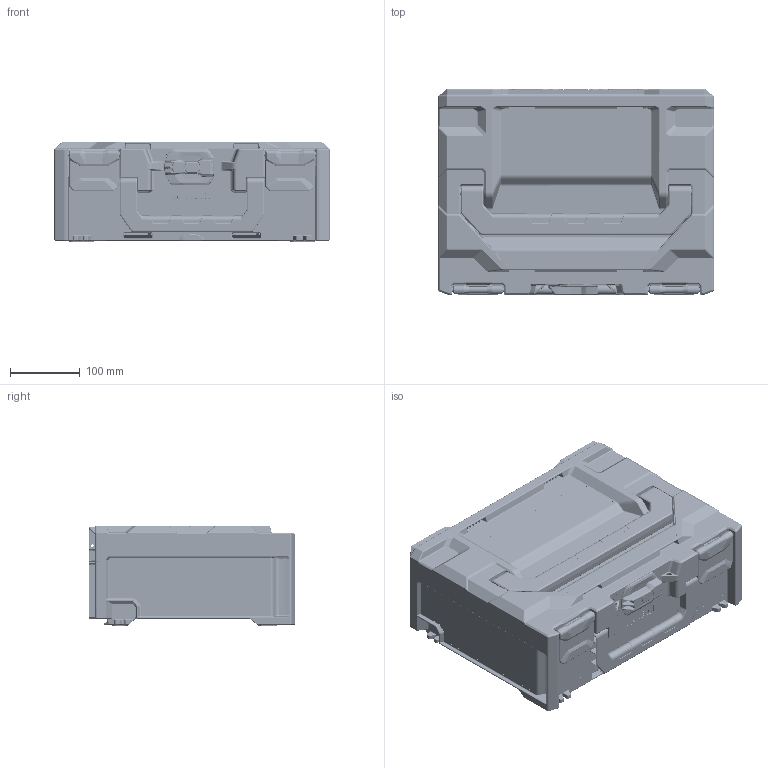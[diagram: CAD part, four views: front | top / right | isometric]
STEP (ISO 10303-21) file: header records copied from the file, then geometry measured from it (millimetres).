
FILE_DESCRIPTION(/* description */ (''),/* implementation_level */ '2;1');
FILE_NAME(/* name */ 'metaBOX_145_Neutral.stp',/* time_stamp */ '2020-06-16T15:57:38+02:00',/* author */ (''),/* organization */ (''),/* preprocessor_version */ 'ST-DEVELOPER v16.7',/* originating_system */ 'SIEMENS PLM Software NX 12.0',/* authorisation */ '');
FILE_SCHEMA (('AUTOMOTIVE_DESIGN { 1 0 10303 214 3 1 1 1 }'));
Products named in the file (1): BU740C6CC2yd57
Bounding box: 396 x 296.1 x 145 mm (x, y, z)
Volume: 1442604.6 mm3; surface area: 1197179.1 mm2
Topology: 7 solids, 7 shells, 13463 faces, 33120 edges, 19121 vertices
Faces by surface type: bspline 5310, cylinder 4455, plane 2880, sphere 418, cone 219, torus 175, extrusion 6
Full cylindrical faces by diameter (mm): 4 x11
Entity records: 522581 total; most frequent: CARTESIAN_POINT 239284, ORIENTED_EDGE 64808, DIRECTION 52738, EDGE_CURVE 32404, AXIS2_PLACEMENT_3D 20616, VERTEX_POINT 19089, EDGE_LOOP 13711, ADVANCED_FACE 13459
